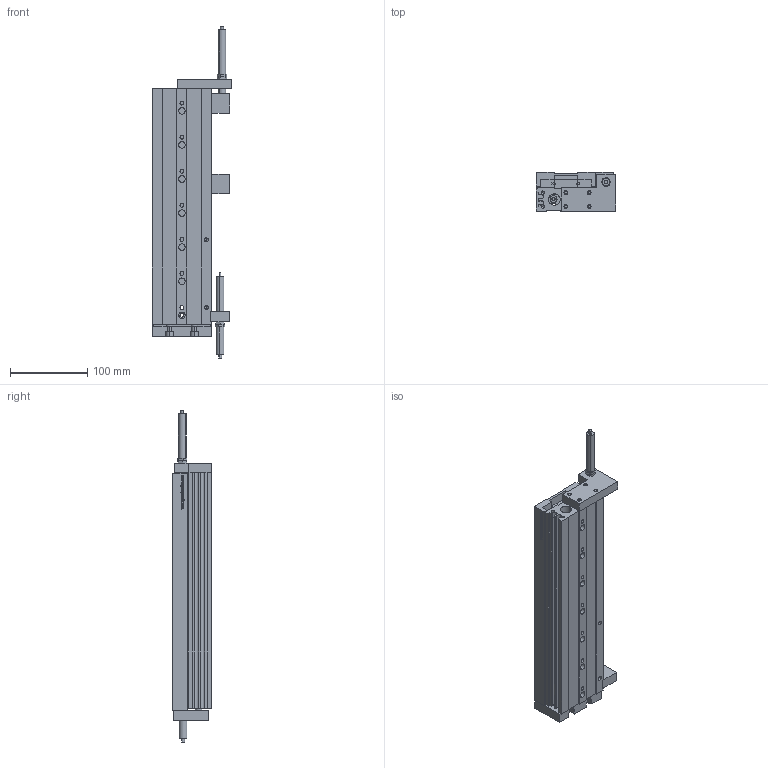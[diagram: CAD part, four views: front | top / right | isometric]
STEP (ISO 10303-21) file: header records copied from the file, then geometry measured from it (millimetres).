
FILE_DESCRIPTION (( 'STEP AP203' ), '1' );
FILE_NAME ('GDX 20-150.STEP', '2013-02-27T16:25:32', ( 'Conseil Régional Haute-Normandie' ), ( 'Conseil Régional Haute-Normandie' ), 'SwSTEP 2.0', 'SolidWorks 2010', '' );
FILE_SCHEMA (( 'CONFIG_CONTROL_DESIGN' ));
Length unit declared in the file: millimetre
Products named in the file (14): Pièce13 GDX 20-150_Default; Pièce3 GDX 20-10_Default; Pièce2 GDX 20-10_Default; Pièce7 GDX 20-10_Default; GDX 20-150; Pièce 10 GDX 20-150_Default; Pièce 12 GDX 20-150_Default; Pièce11 GDX 20-150_Default; Pièce9 GDX 20-100_Default; Pièce4 GDX 20-100_Default; Pièce1 GDX 20-10_Default; Pièce14 GDX 20-10_Default; Pièce16 GDX 20-10_Default; Pièce15 GDX 20-10_Default
Assembly tree (32 placements, depth 2):
  GDX 20-150
    Pièce16 GDX 20-10_Default  x4
    Pièce7 GDX 20-10_Default
    Pièce15 GDX 20-10_Default  x10
    Pièce2 GDX 20-10_Default
    Pièce14 GDX 20-10_Default  x4
    Pièce13 GDX 20-150_Default  x2
    Pièce3 GDX 20-10_Default  x2
    Pièce9 GDX 20-100_Default  x2
    Pièce4 GDX 20-100_Default  x2
    Pièce 10 GDX 20-150_Default
    Pièce 12 GDX 20-150_Default
    Pièce11 GDX 20-150_Default
    Pièce1 GDX 20-10_Default
Bounding box: 102 x 50 x 428.65 mm (x, y, z)
Volume: 983231 mm3; surface area: 289617.7 mm2
Topology: 32 solids, 32 shells, 860 faces, 2194 edges, 1428 vertices
Faces by surface type: plane 409, cylinder 278, bspline 133, cone 40
Entity records: 33660 total; most frequent: CARTESIAN_POINT 14679, ORIENTED_EDGE 3648, DIRECTION 3150, EDGE_CURVE 1824, VERTEX_POINT 1208, LINE 1148, VECTOR 1148, AXIS2_PLACEMENT_3D 1001
